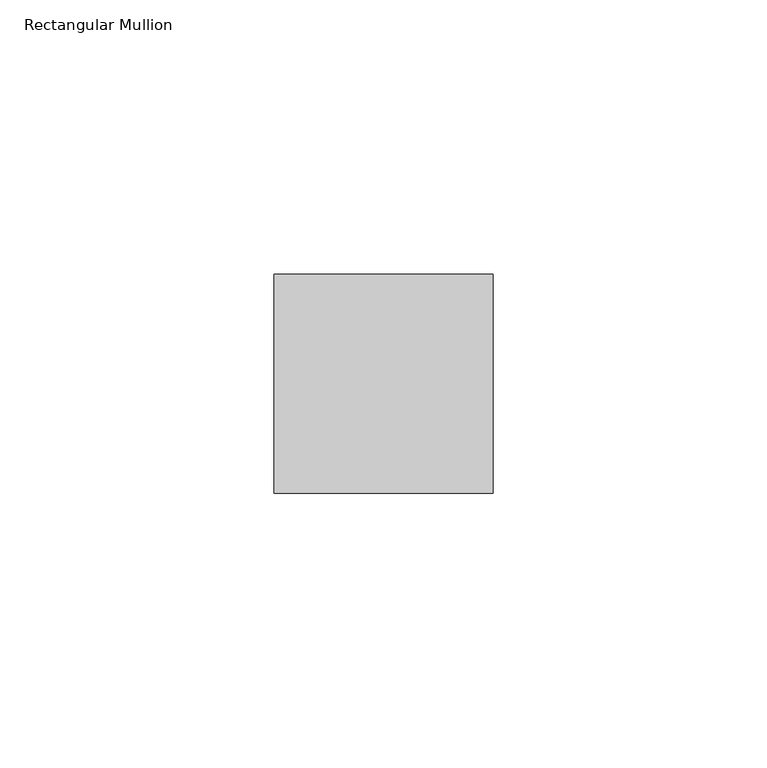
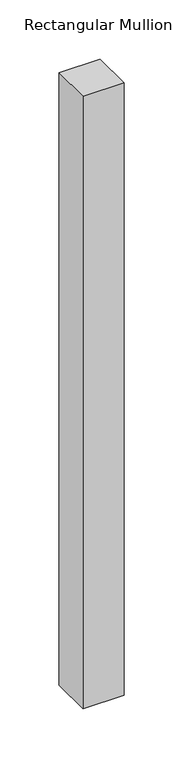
"""IFC4 building model written with IfcOpenShell, lengths in millimetres: member geometry, Rectangular Mullion : Danpal_NM_Middle-V-Mullion."""

from ifc_helpers import new_model, si_unit, frame, origin, place, context, project, spatial, polyline, outline, extrude, source, transform, mapped, element, save


def rectangular_mullion_d3216a82(model_context):
    return source(origin(), model_context, "Body", "SweptSolid", [
        extrude(outline(polyline([(0.0, 13.2378279), (-40.0, 13.2378279), (-40.0, 53.2378279), (0.0, 53.2378279), (0.0, 13.2378279)])), frame((0.0, 0.0, -630.0), z_axis=(0.0, 0.0, 1.0), x_axis=(1.0, 0.0, 0.0)), (0.0, 0.0, 1.0), 630.0),
    ])


if __name__ == "__main__":
    model = new_model("IFC4")
    model_context = context("Model", 3, world=origin())
    ifc_project = project(units=[si_unit("LENGTHUNIT", "METRE", prefix="MILLI")], contexts=[model_context])
    site = spatial("IfcSite", under=ifc_project)
    building = spatial("IfcBuilding", under=site)
    placement = place(None, origin())
    rectangular_mullion_shape = rectangular_mullion_d3216a82(model_context)
    element("IfcMember", 1, ObjectType="Rectangular Mullion : Danpal_NM_Middle-V-Mullion", at=placement, inside=building, context=model_context, shape_type="MappedRepresentation", body=[
        mapped(rectangular_mullion_shape, transform((0.0, 0.0, 0.0), x_axis=(1.0, 0.0, 0.0), y_axis=(0.0, 1.0, 0.0), z_axis=(0.0, 0.0, 1.0))),
    ])
    save(model, "model.ifc")
